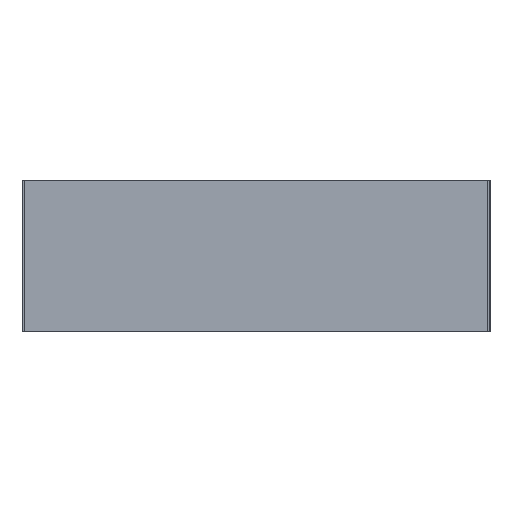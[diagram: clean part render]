
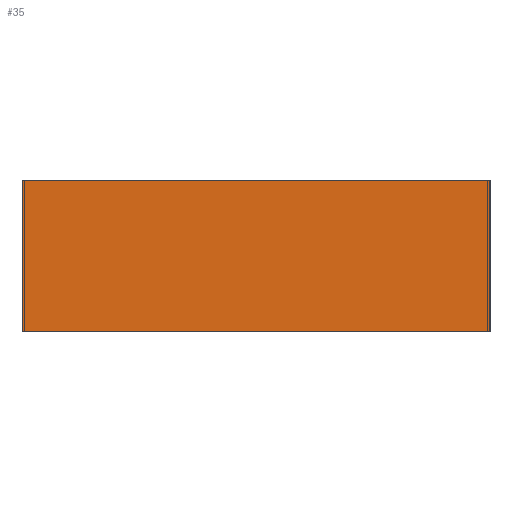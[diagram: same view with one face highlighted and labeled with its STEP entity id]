
A CAD part, left-side view. The second image highlights one B-rep face of the part: STEP entity #35.
In plain terms, the highlighted planar face has unit normal (-1, 0, 0).
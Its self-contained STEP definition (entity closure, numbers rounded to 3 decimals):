
#35 = ADVANCED_FACE('',(#36),#50,.F.);
#36 = FACE_BOUND('',#37,.F.);
#37 = EDGE_LOOP('',(#38,#73,#101,#129));
#38 = ORIENTED_EDGE('',*,*,#39,.F.);
#39 = EDGE_CURVE('',#40,#42,#44,.T.);
#40 = VERTEX_POINT('',#41);
#41 = CARTESIAN_POINT('',(-38.1,-21.6,0.));
#42 = VERTEX_POINT('',#43);
#43 = CARTESIAN_POINT('',(-38.1,-21.6,14.));
#44 = SURFACE_CURVE('',#45,(#49,#61),.PCURVE_S1.);
#45 = LINE('',#46,#47);
#46 = CARTESIAN_POINT('',(-38.1,-21.6,0.));
#47 = VECTOR('',#48,1.);
#48 = DIRECTION('',(0.,0.,1.));
#49 = PCURVE('',#50,#55);
#50 = PLANE('',#51);
#51 = AXIS2_PLACEMENT_3D('',#52,#53,#54);
#52 = CARTESIAN_POINT('',(-38.1,-21.6,0.));
#53 = DIRECTION('',(1.,0.,0.));
#54 = DIRECTION('',(0.,0.,1.));
#55 = DEFINITIONAL_REPRESENTATION('',(#56),#60);
#56 = LINE('',#57,#58);
#57 = CARTESIAN_POINT('',(0.,0.));
#58 = VECTOR('',#59,1.);
#59 = DIRECTION('',(1.,0.));
#60 = ( GEOMETRIC_REPRESENTATION_CONTEXT(2) 
PARAMETRIC_REPRESENTATION_CONTEXT() REPRESENTATION_CONTEXT('2D SPACE',''
  ) );
#61 = PCURVE('',#62,#67);
#62 = PLANE('',#63);
#63 = AXIS2_PLACEMENT_3D('',#64,#65,#66);
#64 = CARTESIAN_POINT('',(-38.1,-21.6,0.));
#65 = DIRECTION('',(0.,1.,0.));
#66 = DIRECTION('',(0.,0.,1.));
#67 = DEFINITIONAL_REPRESENTATION('',(#68),#72);
#68 = LINE('',#69,#70);
#69 = CARTESIAN_POINT('',(0.,0.));
#70 = VECTOR('',#71,1.);
#71 = DIRECTION('',(1.,0.));
#72 = ( GEOMETRIC_REPRESENTATION_CONTEXT(2) 
PARAMETRIC_REPRESENTATION_CONTEXT() REPRESENTATION_CONTEXT('2D SPACE',''
  ) );
#73 = ORIENTED_EDGE('',*,*,#74,.T.);
#74 = EDGE_CURVE('',#40,#75,#77,.T.);
#75 = VERTEX_POINT('',#76);
#76 = CARTESIAN_POINT('',(-38.1,21.6,0.));
#77 = SURFACE_CURVE('',#78,(#82,#89),.PCURVE_S1.);
#78 = LINE('',#79,#80);
#79 = CARTESIAN_POINT('',(-38.1,-21.6,0.));
#80 = VECTOR('',#81,1.);
#81 = DIRECTION('',(0.,1.,0.));
#82 = PCURVE('',#50,#83);
#83 = DEFINITIONAL_REPRESENTATION('',(#84),#88);
#84 = LINE('',#85,#86);
#85 = CARTESIAN_POINT('',(0.,0.));
#86 = VECTOR('',#87,1.);
#87 = DIRECTION('',(0.,-1.));
#88 = ( GEOMETRIC_REPRESENTATION_CONTEXT(2) 
PARAMETRIC_REPRESENTATION_CONTEXT() REPRESENTATION_CONTEXT('2D SPACE',''
  ) );
#89 = PCURVE('',#90,#95);
#90 = PLANE('',#91);
#91 = AXIS2_PLACEMENT_3D('',#92,#93,#94);
#92 = CARTESIAN_POINT('',(-38.1,-21.6,0.));
#93 = DIRECTION('',(0.,0.,1.));
#94 = DIRECTION('',(1.,0.,0.));
#95 = DEFINITIONAL_REPRESENTATION('',(#96),#100);
#96 = LINE('',#97,#98);
#97 = CARTESIAN_POINT('',(0.,0.));
#98 = VECTOR('',#99,1.);
#99 = DIRECTION('',(0.,1.));
#100 = ( GEOMETRIC_REPRESENTATION_CONTEXT(2) 
PARAMETRIC_REPRESENTATION_CONTEXT() REPRESENTATION_CONTEXT('2D SPACE',''
  ) );
#101 = ORIENTED_EDGE('',*,*,#102,.T.);
#102 = EDGE_CURVE('',#75,#103,#105,.T.);
#103 = VERTEX_POINT('',#104);
#104 = CARTESIAN_POINT('',(-38.1,21.6,14.));
#105 = SURFACE_CURVE('',#106,(#110,#117),.PCURVE_S1.);
#106 = LINE('',#107,#108);
#107 = CARTESIAN_POINT('',(-38.1,21.6,0.));
#108 = VECTOR('',#109,1.);
#109 = DIRECTION('',(0.,0.,1.));
#110 = PCURVE('',#50,#111);
#111 = DEFINITIONAL_REPRESENTATION('',(#112),#116);
#112 = LINE('',#113,#114);
#113 = CARTESIAN_POINT('',(0.,-43.2));
#114 = VECTOR('',#115,1.);
#115 = DIRECTION('',(1.,0.));
#116 = ( GEOMETRIC_REPRESENTATION_CONTEXT(2) 
PARAMETRIC_REPRESENTATION_CONTEXT() REPRESENTATION_CONTEXT('2D SPACE',''
  ) );
#117 = PCURVE('',#118,#123);
#118 = PLANE('',#119);
#119 = AXIS2_PLACEMENT_3D('',#120,#121,#122);
#120 = CARTESIAN_POINT('',(-38.1,21.6,0.));
#121 = DIRECTION('',(0.,1.,0.));
#122 = DIRECTION('',(0.,0.,1.));
#123 = DEFINITIONAL_REPRESENTATION('',(#124),#128);
#124 = LINE('',#125,#126);
#125 = CARTESIAN_POINT('',(0.,0.));
#126 = VECTOR('',#127,1.);
#127 = DIRECTION('',(1.,0.));
#128 = ( GEOMETRIC_REPRESENTATION_CONTEXT(2) 
PARAMETRIC_REPRESENTATION_CONTEXT() REPRESENTATION_CONTEXT('2D SPACE',''
  ) );
#129 = ORIENTED_EDGE('',*,*,#130,.F.);
#130 = EDGE_CURVE('',#42,#103,#131,.T.);
#131 = SURFACE_CURVE('',#132,(#136,#143),.PCURVE_S1.);
#132 = LINE('',#133,#134);
#133 = CARTESIAN_POINT('',(-38.1,-21.6,14.));
#134 = VECTOR('',#135,1.);
#135 = DIRECTION('',(0.,1.,0.));
#136 = PCURVE('',#50,#137);
#137 = DEFINITIONAL_REPRESENTATION('',(#138),#142);
#138 = LINE('',#139,#140);
#139 = CARTESIAN_POINT('',(14.,0.));
#140 = VECTOR('',#141,1.);
#141 = DIRECTION('',(0.,-1.));
#142 = ( GEOMETRIC_REPRESENTATION_CONTEXT(2) 
PARAMETRIC_REPRESENTATION_CONTEXT() REPRESENTATION_CONTEXT('2D SPACE',''
  ) );
#143 = PCURVE('',#144,#149);
#144 = PLANE('',#145);
#145 = AXIS2_PLACEMENT_3D('',#146,#147,#148);
#146 = CARTESIAN_POINT('',(-38.1,-21.6,14.));
#147 = DIRECTION('',(0.,0.,1.));
#148 = DIRECTION('',(1.,0.,0.));
#149 = DEFINITIONAL_REPRESENTATION('',(#150),#154);
#150 = LINE('',#151,#152);
#151 = CARTESIAN_POINT('',(0.,0.));
#152 = VECTOR('',#153,1.);
#153 = DIRECTION('',(0.,1.));
#154 = ( GEOMETRIC_REPRESENTATION_CONTEXT(2) 
PARAMETRIC_REPRESENTATION_CONTEXT() REPRESENTATION_CONTEXT('2D SPACE',''
  ) );
